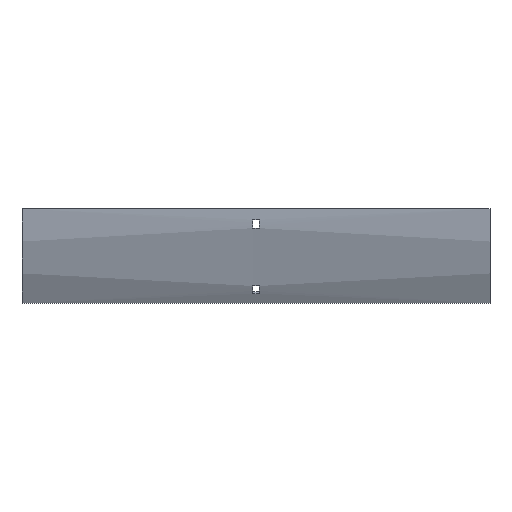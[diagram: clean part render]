
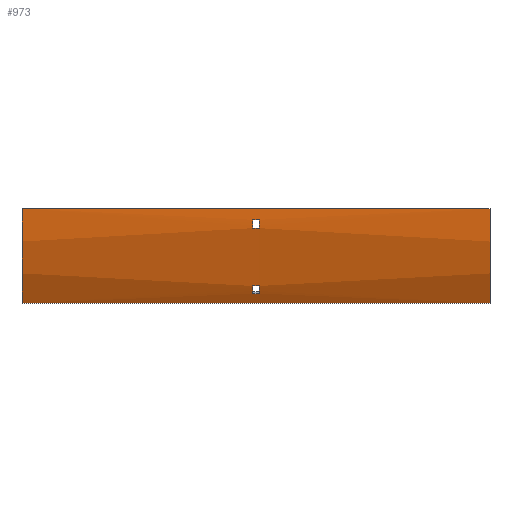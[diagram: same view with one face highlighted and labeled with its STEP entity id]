
A CAD part, front view. The second image highlights one B-rep face of the part: STEP entity #973.
In plain terms, the highlighted cylindrical face has radius 204 mm (diameter 408 mm), a partial arc.
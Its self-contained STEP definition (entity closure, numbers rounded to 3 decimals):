
#62 = ORIENTED_EDGE ( 'NONE', *, *, #1682, .F. ) ;
#68 = ORIENTED_EDGE ( 'NONE', *, *, #444, .F. ) ;
#71 = DIRECTION ( 'NONE',  ( 1., 0., 0. ) ) ;
#72 = FACE_OUTER_BOUND ( 'NONE', #586, .T. ) ;
#103 = VECTOR ( 'NONE', #71, 1000. ) ;
#110 = EDGE_LOOP ( 'NONE', ( #1268, #62, #1693, #530 ) ) ;
#111 = EDGE_CURVE ( 'NONE', #1161, #524, #1262, .T. ) ;
#114 = VERTEX_POINT ( 'NONE', #1635 ) ;
#120 = CARTESIAN_POINT ( 'NONE',  ( -3.25, -102.916, -21. ) ) ;
#132 = EDGE_CURVE ( 'NONE', #1370, #1619, #270, .T. ) ;
#146 = DIRECTION ( 'NONE',  ( 1., 0., 0. ) ) ;
#147 = DIRECTION ( 'NONE',  ( -1., 0., 0. ) ) ;
#175 = EDGE_CURVE ( 'NONE', #963, #1370, #1380, .T. ) ;
#199 = CARTESIAN_POINT ( 'NONE',  ( 252., -103.647, -12. ) ) ;
#210 = EDGE_CURVE ( 'NONE', #963, #1382, #690, .T. ) ;
#217 = DIRECTION ( 'NONE',  ( 0., 0., -1. ) ) ;
#234 = CARTESIAN_POINT ( 'NONE',  ( 3.25, 100., 0. ) ) ;
#245 = EDGE_LOOP ( 'NONE', ( #671, #993, #855, #1049 ) ) ;
#270 = CIRCLE ( 'NONE', #641, 204. ) ;
#341 = CARTESIAN_POINT ( 'NONE',  ( -252., -76.669, -102. ) ) ;
#345 = AXIS2_PLACEMENT_3D ( 'NONE', #1083, #147, #824 ) ;
#347 = DIRECTION ( 'NONE',  ( 0., 0., 1. ) ) ;
#353 = CYLINDRICAL_SURFACE ( 'NONE', #456, 204. ) ;
#354 = AXIS2_PLACEMENT_3D ( 'NONE', #1027, #379, #1555 ) ;
#379 = DIRECTION ( 'NONE',  ( 1., 0., 0. ) ) ;
#400 = CARTESIAN_POINT ( 'NONE',  ( 252., 100., 0. ) ) ;
#403 = CARTESIAN_POINT ( 'NONE',  ( -3.25, -103.647, -12. ) ) ;
#420 = CARTESIAN_POINT ( 'NONE',  ( 252., -86.231, -83.272 ) ) ;
#444 = EDGE_CURVE ( 'NONE', #1382, #1619, #1010, .T. ) ;
#456 = AXIS2_PLACEMENT_3D ( 'NONE', #613, #1541, #1654 ) ;
#497 = CARTESIAN_POINT ( 'NONE',  ( 3.25, -82.363, -91.431 ) ) ;
#524 = VERTEX_POINT ( 'NONE', #1546 ) ;
#529 = CARTESIAN_POINT ( 'NONE',  ( -252., -104., 0. ) ) ;
#530 = ORIENTED_EDGE ( 'NONE', *, *, #629, .F. ) ;
#539 = AXIS2_PLACEMENT_3D ( 'NONE', #234, #1067, #1597 ) ;
#550 = ORIENTED_EDGE ( 'NONE', *, *, #210, .F. ) ;
#563 = EDGE_CURVE ( 'NONE', #114, #1658, #583, .T. ) ;
#583 = CIRCLE ( 'NONE', #354, 204. ) ;
#586 = EDGE_LOOP ( 'NONE', ( #1359, #68, #550, #1688 ) ) ;
#613 = CARTESIAN_POINT ( 'NONE',  ( 252., 100., 0. ) ) ;
#629 = EDGE_CURVE ( 'NONE', #1658, #1235, #1334, .T. ) ;
#637 = CARTESIAN_POINT ( 'NONE',  ( -3.25, -82.363, -91.431 ) ) ;
#641 = AXIS2_PLACEMENT_3D ( 'NONE', #1396, #979, #217 ) ;
#669 = EDGE_CURVE ( 'NONE', #1580, #785, #1077, .T. ) ;
#671 = ORIENTED_EDGE ( 'NONE', *, *, #669, .T. ) ;
#690 = CIRCLE ( 'NONE', #1009, 204. ) ;
#727 = CARTESIAN_POINT ( 'NONE',  ( 252., -76.669, -102. ) ) ;
#731 = CARTESIAN_POINT ( 'NONE',  ( 252., -104., 0. ) ) ;
#785 = VERTEX_POINT ( 'NONE', #120 ) ;
#791 = VERTEX_POINT ( 'NONE', #1678 ) ;
#824 = DIRECTION ( 'NONE',  ( 0., 0., 1. ) ) ;
#841 = CARTESIAN_POINT ( 'NONE',  ( 252., -102.916, -21. ) ) ;
#855 = ORIENTED_EDGE ( 'NONE', *, *, #111, .T. ) ;
#885 = FACE_BOUND ( 'NONE', #245, .T. ) ;
#933 = VECTOR ( 'NONE', #1075, 1000. ) ;
#951 = CIRCLE ( 'NONE', #345, 204. ) ;
#954 = CARTESIAN_POINT ( 'NONE',  ( 3.25, -102.916, -21. ) ) ;
#963 = VERTEX_POINT ( 'NONE', #731 ) ;
#973 = ADVANCED_FACE ( 'NONE', ( #72, #885, #1381 ), #353, .T. ) ;
#979 = DIRECTION ( 'NONE',  ( 1., 0., 0. ) ) ;
#993 = ORIENTED_EDGE ( 'NONE', *, *, #1128, .T. ) ;
#1009 = AXIS2_PLACEMENT_3D ( 'NONE', #400, #1558, #1422 ) ;
#1010 = LINE ( 'NONE', #1537, #1695 ) ;
#1027 = CARTESIAN_POINT ( 'NONE',  ( -3.25, 100., 0. ) ) ;
#1049 = ORIENTED_EDGE ( 'NONE', *, *, #1216, .T. ) ;
#1067 = DIRECTION ( 'NONE',  ( 1., 0., 0. ) ) ;
#1075 = DIRECTION ( 'NONE',  ( -1., 0., 0. ) ) ;
#1077 = LINE ( 'NONE', #841, #1185 ) ;
#1083 = CARTESIAN_POINT ( 'NONE',  ( 3.25, 100., 0. ) ) ;
#1091 = VECTOR ( 'NONE', #146, 1000. ) ;
#1113 = DIRECTION ( 'NONE',  ( -1., 0., 0. ) ) ;
#1128 = EDGE_CURVE ( 'NONE', #785, #1161, #1296, .T. ) ;
#1156 = DIRECTION ( 'NONE',  ( -1., 0., 0. ) ) ;
#1161 = VERTEX_POINT ( 'NONE', #403 ) ;
#1185 = VECTOR ( 'NONE', #1608, 1000. ) ;
#1207 = AXIS2_PLACEMENT_3D ( 'NONE', #1371, #1113, #347 ) ;
#1211 = LINE ( 'NONE', #420, #933 ) ;
#1216 = EDGE_CURVE ( 'NONE', #524, #1580, #1263, .T. ) ;
#1234 = DIRECTION ( 'NONE',  ( -1., 0., 0. ) ) ;
#1235 = VERTEX_POINT ( 'NONE', #497 ) ;
#1262 = LINE ( 'NONE', #199, #103 ) ;
#1263 = CIRCLE ( 'NONE', #539, 204. ) ;
#1268 = ORIENTED_EDGE ( 'NONE', *, *, #563, .F. ) ;
#1296 = CIRCLE ( 'NONE', #1207, 204. ) ;
#1334 = LINE ( 'NONE', #1484, #1091 ) ;
#1359 = ORIENTED_EDGE ( 'NONE', *, *, #132, .T. ) ;
#1367 = VECTOR ( 'NONE', #1156, 1000. ) ;
#1370 = VERTEX_POINT ( 'NONE', #529 ) ;
#1371 = CARTESIAN_POINT ( 'NONE',  ( -3.25, 100., 0. ) ) ;
#1380 = LINE ( 'NONE', #1585, #1367 ) ;
#1381 = FACE_BOUND ( 'NONE', #110, .T. ) ;
#1382 = VERTEX_POINT ( 'NONE', #727 ) ;
#1396 = CARTESIAN_POINT ( 'NONE',  ( -252., 100., 0. ) ) ;
#1422 = DIRECTION ( 'NONE',  ( 0., 0., -1. ) ) ;
#1484 = CARTESIAN_POINT ( 'NONE',  ( 252., -82.363, -91.431 ) ) ;
#1507 = EDGE_CURVE ( 'NONE', #1235, #791, #951, .T. ) ;
#1537 = CARTESIAN_POINT ( 'NONE',  ( 252., -76.669, -102. ) ) ;
#1541 = DIRECTION ( 'NONE',  ( -1., 0., 0. ) ) ;
#1546 = CARTESIAN_POINT ( 'NONE',  ( 3.25, -103.647, -12. ) ) ;
#1555 = DIRECTION ( 'NONE',  ( 0., 0., -1. ) ) ;
#1558 = DIRECTION ( 'NONE',  ( 1., 0., 0. ) ) ;
#1580 = VERTEX_POINT ( 'NONE', #954 ) ;
#1585 = CARTESIAN_POINT ( 'NONE',  ( 252., -104., 0. ) ) ;
#1597 = DIRECTION ( 'NONE',  ( 0., 0., -1. ) ) ;
#1608 = DIRECTION ( 'NONE',  ( -1., 0., 0. ) ) ;
#1619 = VERTEX_POINT ( 'NONE', #341 ) ;
#1635 = CARTESIAN_POINT ( 'NONE',  ( -3.25, -86.231, -83.272 ) ) ;
#1654 = DIRECTION ( 'NONE',  ( 0., 0., 1. ) ) ;
#1658 = VERTEX_POINT ( 'NONE', #637 ) ;
#1678 = CARTESIAN_POINT ( 'NONE',  ( 3.25, -86.231, -83.272 ) ) ;
#1682 = EDGE_CURVE ( 'NONE', #791, #114, #1211, .T. ) ;
#1688 = ORIENTED_EDGE ( 'NONE', *, *, #175, .T. ) ;
#1693 = ORIENTED_EDGE ( 'NONE', *, *, #1507, .F. ) ;
#1695 = VECTOR ( 'NONE', #1234, 1000. ) ;
